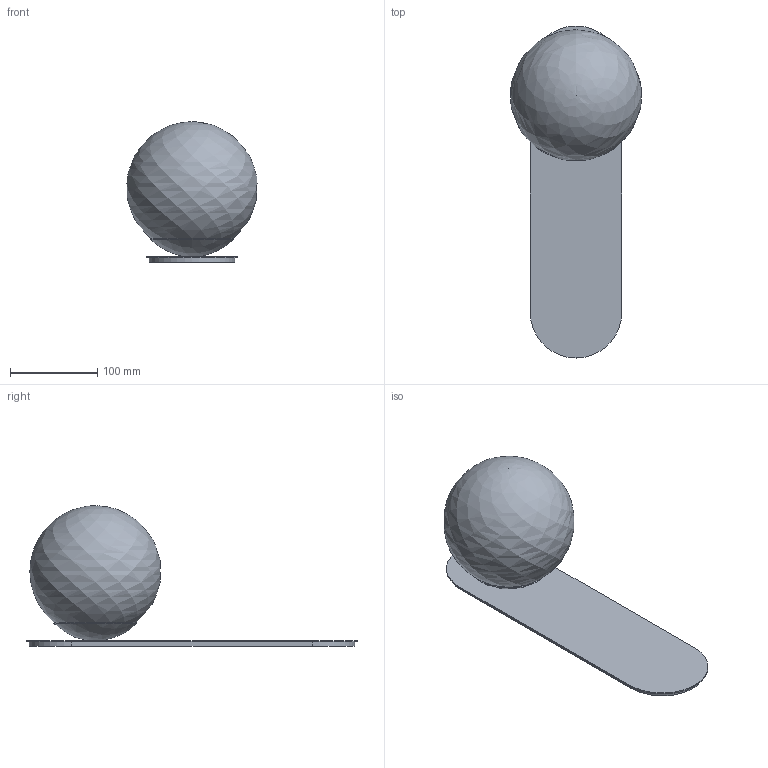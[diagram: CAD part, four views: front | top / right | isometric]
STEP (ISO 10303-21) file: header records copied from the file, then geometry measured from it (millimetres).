
FILE_DESCRIPTION(/* description */ (''),/* implementation_level */ '2;1');
FILE_NAME(/* name */ 'B653 Adrion Wall Sconce LG.stp',/* time_stamp */ '2022-10-12T15:52:03+02:00',/* author */ ('Mariusz Awariusz'),/* organization */ (''),/* preprocessor_version */ 'ST-DEVELOPER v19.2',/* originating_system */ 'Autodesk Inventor 2023',/* authorisation */ '');
FILE_SCHEMA (('AUTOMOTIVE_DESIGN { 1 0 10303 214 3 1 1 }'));
Length unit declared in the file: millimetre
Products named in the file (1): B653 Adrion Wall Sconce LG_jako część
Bounding box: 148.83 x 380 x 160.73 mm (x, y, z)
Volume: 370995.2 mm3; surface area: 300574.4 mm2
Topology: 4 solids, 4 shells, 21 faces, 43 edges, 28 vertices
Faces by surface type: plane 8, cylinder 6, sphere 2, torus 2, bspline 2, cone 1
Full cylindrical faces by diameter (mm): 16 x1, 50.221 x1
Entity records: 677 total; most frequent: CARTESIAN_POINT 179, DIRECTION 103, ORIENTED_EDGE 82, AXIS2_PLACEMENT_3D 42, EDGE_CURVE 41, VERTEX_POINT 28, EDGE_LOOP 23, CIRCLE 22
